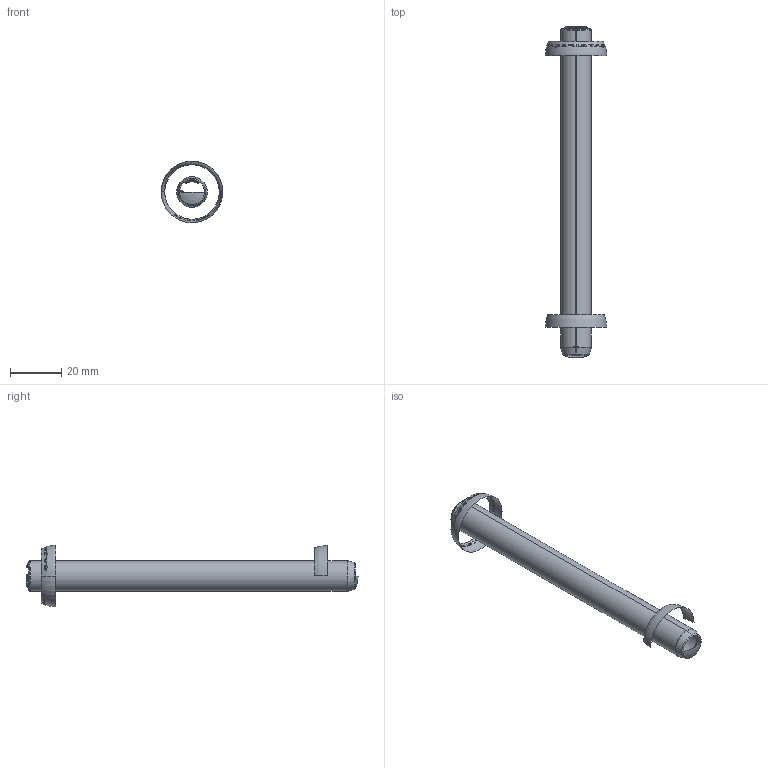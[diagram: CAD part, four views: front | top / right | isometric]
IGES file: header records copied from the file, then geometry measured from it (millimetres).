
Start section: SolidWorks IGES file using analytic representation for surfaces
Global section: file name: D:\Cleonir_arquivos\MT_15_07\Pinos Guia DIN 6325 ISO 8734 sem rosca\PG612130.igs; native system: SolidWorks 2013; preprocessor: SolidWorks 2013; author: Cleonir; date: 130718.161913; units: millimetre
Bounding box: 24 x 129.61 x 23.99 mm (x, y, z)
Surface area: 5541.1 mm2 (no closed solid volume)
Topology: 0 solids, 0 shells, 285 faces, 3208 edges, 3207 vertices
Faces by surface type: bspline 260, revolution 25
